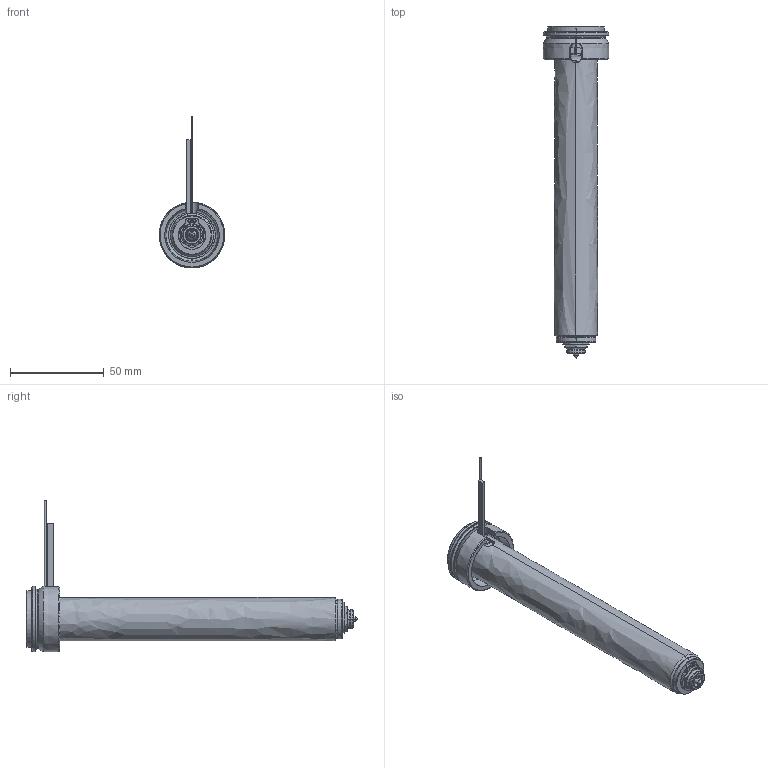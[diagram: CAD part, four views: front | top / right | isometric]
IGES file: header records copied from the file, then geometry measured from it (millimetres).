
Start section: SolidWorks IGES file using analytic representation for surfaces
Global section: file name: C:\Documents and Settings\ws-20\Desktop\TEM\UGEP3054-M-A-1 [Øf-0.90 ØC-6.0].IGS; native system: SolidWorks 2012; preprocessor: SolidWorks 2012; author: ws-20; date: 120402.112929; units: millimetre
Bounding box: 35 x 176.8 x 80.9 mm (x, y, z)
Surface area: 25106.3 mm2 (no closed solid volume)
Topology: 0 solids, 0 shells, 127 faces, 1776 edges, 1776 vertices
Faces by surface type: revolution 77, bspline 50
